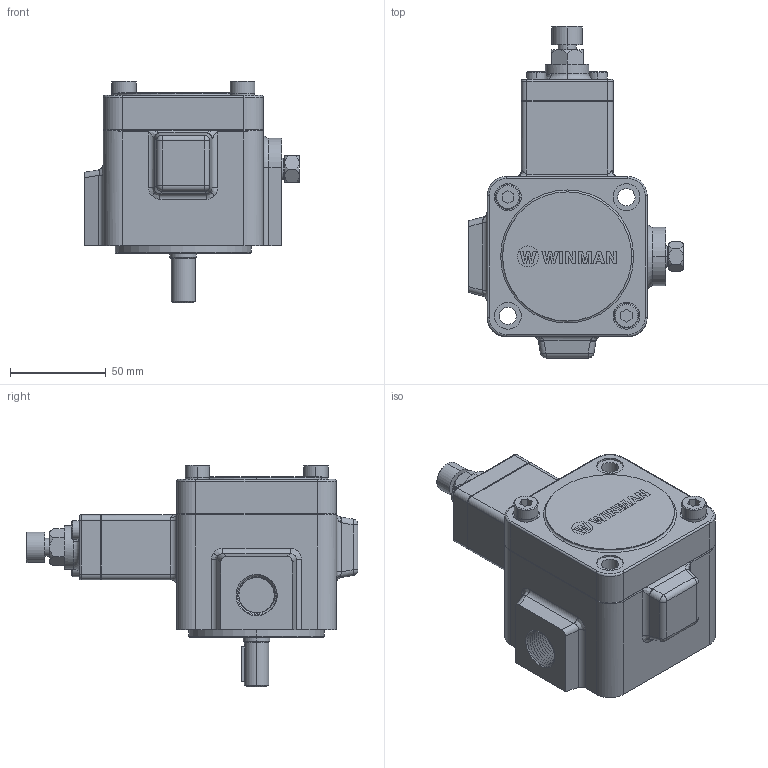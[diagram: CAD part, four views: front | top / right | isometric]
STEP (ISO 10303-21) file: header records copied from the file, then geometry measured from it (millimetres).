
FILE_DESCRIPTION (( 'STEP AP214' ), '1' );
FILE_NAME ('VPKC-F8 (3DMY).STEP', '2017-12-15T14:44:16', ( 'Hidtek' ), ( '' ), 'SwSTEP 2.0', 'SolidWorks 2016', '' );
FILE_SCHEMA (( 'AUTOMOTIVE_DESIGN' ));
Length unit declared in the file: millimetre
Products named in the file (1): VPKC-F8 (3DMY)
Bounding box: 112.25 x 173.5 x 116 mm (x, y, z)
Volume: 665142.5 mm3; surface area: 68698.7 mm2
Topology: 1 solids, 1 shells, 437 faces, 1055 edges, 663 vertices
Faces by surface type: plane 203, cylinder 115, cone 46, bspline 35, torus 34, sphere 4
Entity records: 19406 total; most frequent: CARTESIAN_POINT 7953, ORIENTED_EDGE 2110, DIRECTION 2035, EDGE_CURVE 1055, AXIS2_PLACEMENT_3D 718, VERTEX_POINT 663, VECTOR 599, LINE 599
